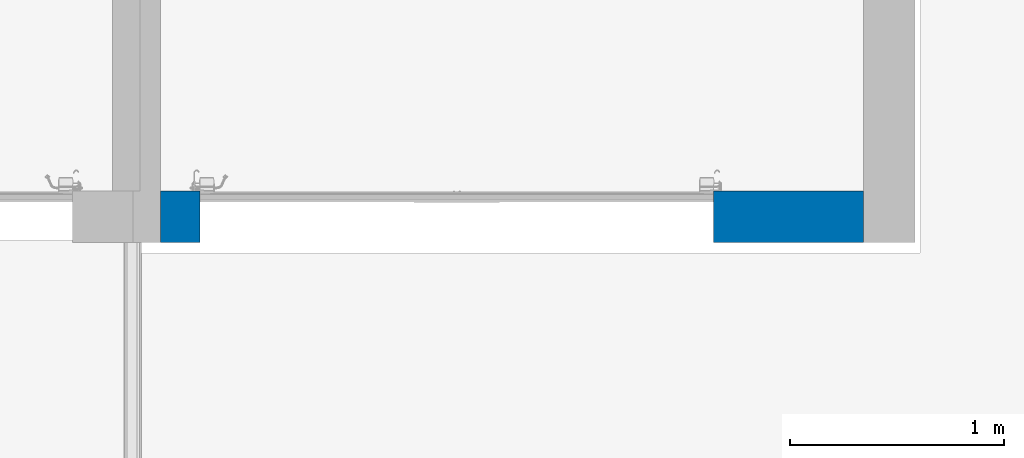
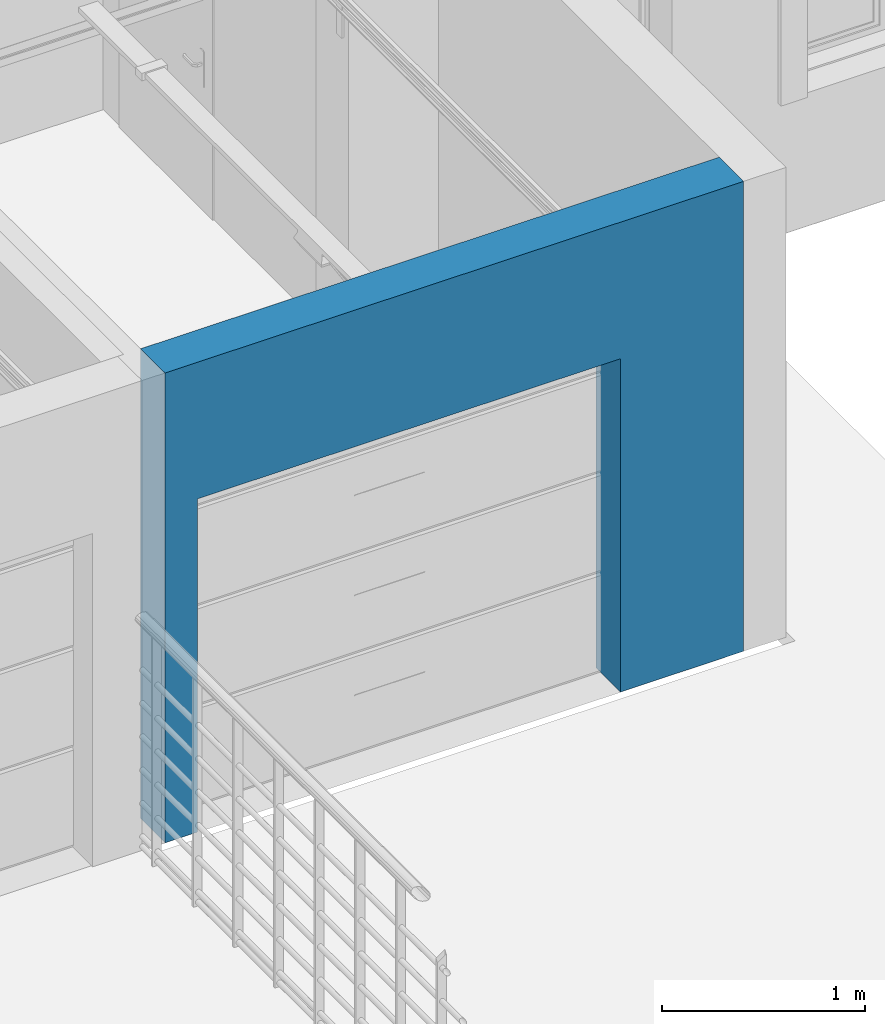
# One storey, part 18 of 30: 1 wall, 1 opening.
"""IFC2X3 building model written with IfcOpenShell, lengths in metres."""

from ifc_helpers import new_model, entity, si_unit, converted_unit, derived_unit, direction, frame, frame_2d, origin, place, context, subcontext, project, spatial, rectangle, extrude, material, layer, layer_set, layer_usage, type_object, element, save


model = new_model("IFC2X3")

# Units and contexts
model_context = context("Model", 3, precision=1e-05, world=origin(), true_north=direction((6.12303176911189e-17, 1.0)))
body_context = subcontext(model_context, "Body", "Model", "MODEL_VIEW")
ifc_project = project(units=[si_unit("LENGTHUNIT", "METRE"), si_unit("AREAUNIT", "SQUARE_METRE"), si_unit("VOLUMEUNIT", "CUBIC_METRE"), converted_unit("PLANEANGLEUNIT", "DEGREE", entity("IfcRatioMeasure", 0.0174532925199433), si_unit("PLANEANGLEUNIT", "RADIAN"), dimensions=[0, 0, 0, 0, 0, 0, 0]), si_unit("MASSUNIT", "GRAM", prefix="KILO"), derived_unit("MASSDENSITYUNIT", [(si_unit("MASSUNIT", "GRAM", prefix="KILO"), 1), (si_unit("LENGTHUNIT", "METRE"), -3)]), si_unit("TIMEUNIT", "SECOND"), si_unit("FREQUENCYUNIT", "HERTZ"), si_unit("THERMODYNAMICTEMPERATUREUNIT", "DEGREE_CELSIUS"), derived_unit("THERMALTRANSMITTANCEUNIT", [(si_unit("MASSUNIT", "GRAM", prefix="KILO"), 1), (si_unit("THERMODYNAMICTEMPERATUREUNIT", "KELVIN"), -1), (si_unit("TIMEUNIT", "SECOND"), -3)]), derived_unit("VOLUMETRICFLOWRATEUNIT", [(si_unit("LENGTHUNIT", "METRE"), 3), (si_unit("TIMEUNIT", "SECOND"), -1)]), si_unit("ELECTRICCURRENTUNIT", "AMPERE"), si_unit("ELECTRICVOLTAGEUNIT", "VOLT"), si_unit("POWERUNIT", "WATT"), si_unit("FORCEUNIT", "NEWTON", prefix="KILO"), si_unit("ILLUMINANCEUNIT", "LUX"), si_unit("LUMINOUSFLUXUNIT", "LUMEN"), si_unit("LUMINOUSINTENSITYUNIT", "CANDELA"), derived_unit("USERDEFINED", [(si_unit("MASSUNIT", "GRAM", prefix="KILO"), -1), (si_unit("LENGTHUNIT", "METRE"), -2), (si_unit("TIMEUNIT", "SECOND"), 3), (si_unit("LUMINOUSFLUXUNIT", "LUMEN"), 1)]), derived_unit("LINEARVELOCITYUNIT", [(si_unit("LENGTHUNIT", "METRE"), 1), (si_unit("TIMEUNIT", "SECOND"), -1)]), si_unit("PRESSUREUNIT", "PASCAL"), derived_unit("USERDEFINED", [(si_unit("LENGTHUNIT", "METRE"), -2), (si_unit("MASSUNIT", "GRAM", prefix="KILO"), 1), (si_unit("TIMEUNIT", "SECOND"), -2)])], contexts=[model_context])

# Site, building, storey
site_placement = place(None, origin())
site = spatial("IfcSite", under=ifc_project, at=site_placement, Name="Surface", CompositionType="ELEMENT")
building_placement = place(site_placement, origin())
building = spatial("IfcBuilding", under=site, at=building_placement, CompositionType="ELEMENT")
storey_placement = place(building_placement, origin())
storey = spatial("IfcBuildingStorey", under=building, at=storey_placement, Name="Plan des fondations  Maisons 1 et 2", CompositionType="ELEMENT", Elevation=0.0)

# Wall, opening
ifc_material_1 = material(Name="Enduit  gris")
ifc_layer_1 = layer(ifc_material_1, 0.02)
ifc_material_2 = material(Name="Parpaing")
ifc_layer_2 = layer(ifc_material_2, 0.2)
ifc_layer_3 = layer(ifc_material_1, 0.02)
ifc_layer_set = layer_set([ifc_layer_1, ifc_layer_2, ifc_layer_3], Name="Mur de base:Ext. Parpaing 2 + 20 + 2 gris")
ifc_layer_usage = layer_usage(ifc_layer_set, "AXIS2", "NEGATIVE", 0.12)
wall_type = type_object("IfcWallType", Name="Mur de base:Ext. Parpaing 2 + 20 + 2 gris", PredefinedType="STANDARD", material=ifc_layer_set)
wall_placement = place(building_placement, frame((83.8417857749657, 81.0475239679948, 0.0)))
wall = element("IfcWallStandardCase", 1, at=wall_placement, inside=storey, type_object=wall_type, material=ifc_layer_usage, Name="Mur de base:Ext. Parpaing 2 + 20 + 2 gris", ObjectType="Mur de base:Ext. Parpaing 2 + 20 + 2 gris", context=body_context, shape_type="SweptSolid", body=[
    extrude(rectangle(XDim=3.28499999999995, YDim=0.240000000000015, at=frame_2d((1.64249999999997, 0.0), x_axis=(-1.0, 0.0))), origin(), (0.0, 0.0, 1.0), 2.82),
])
opening_placement = place(wall_placement, frame((0.185000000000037, -0.12, 0.0)))
element("IfcOpeningElement", 2, at=opening_placement, cuts=wall, Name="Landscaping-Gates- La Toulousaine-La_Toulousaine-Porte_de_garage_HARMONIE_ESQUIF:Landscaping-Gates- La Toulousaine-La_Toulousaine-Porte_de_garage_HARMONIE_ESQUIF 2.00 larg x 2.40 ht:1", ObjectType="Opening", context=body_context, shape_type="SweptSolid", body=[
    extrude(rectangle(XDim=2.0, YDim=2.4, at=frame_2d((1.0, 1.2), x_axis=(1.0, 0.0))), frame((0.0, 0.0, 0.0), z_axis=(0.0, 1.0, 0.0), x_axis=(0.0, 0.0, 1.0)), (0.0, 0.0, 1.0), 0.24),
])

save(model, "model.ifc")
